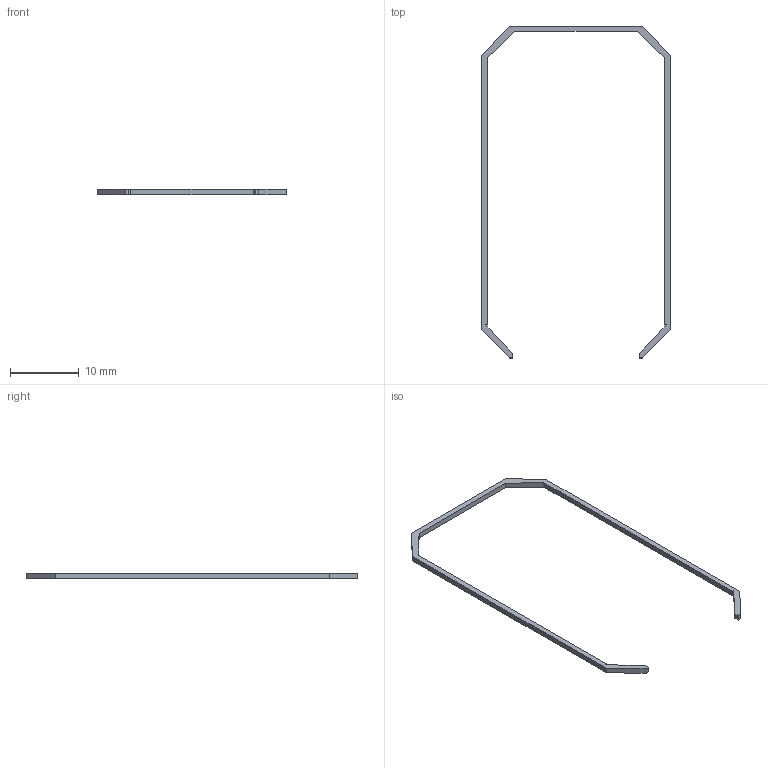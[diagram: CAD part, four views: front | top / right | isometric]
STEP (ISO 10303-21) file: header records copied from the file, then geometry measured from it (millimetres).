
FILE_DESCRIPTION(('Open CASCADE Model'),'2;1');
FILE_NAME('Open CASCADE Shape Model','2026-09-30T23:04:27',('Author'),( 'Open CASCADE'),'Open CASCADE STEP processor 8.0','Open CASCADE 8.0' ,'Unknown');
FILE_SCHEMA(('AP242_MANAGED_MODEL_BASED_3D_ENGINEERING_MIM_LF {1 0 10303 442 1 1 4 }' ));
Length unit declared in the file: millimetre
Products named in the file (1): Open CASCADE STEP translator 8.0 8
Bounding box: 27.5 x 48.4 x 0.8 mm (x, y, z)
Volume: 79.5 mm3; surface area: 393.9 mm2
Topology: 1 solids, 1 shells, 28 faces, 78 edges, 52 vertices
Faces by surface type: plane 28
Entity records: 1822 total; most frequent: CARTESIAN_POINT 399, DIRECTION 208, ORIENTED_EDGE 156, PCURVE 156, DEFINITIONAL_REPRESENTATION 156, LINE 150, VECTOR 150, B_SPLINE_CURVE_WITH_KNOTS 84
